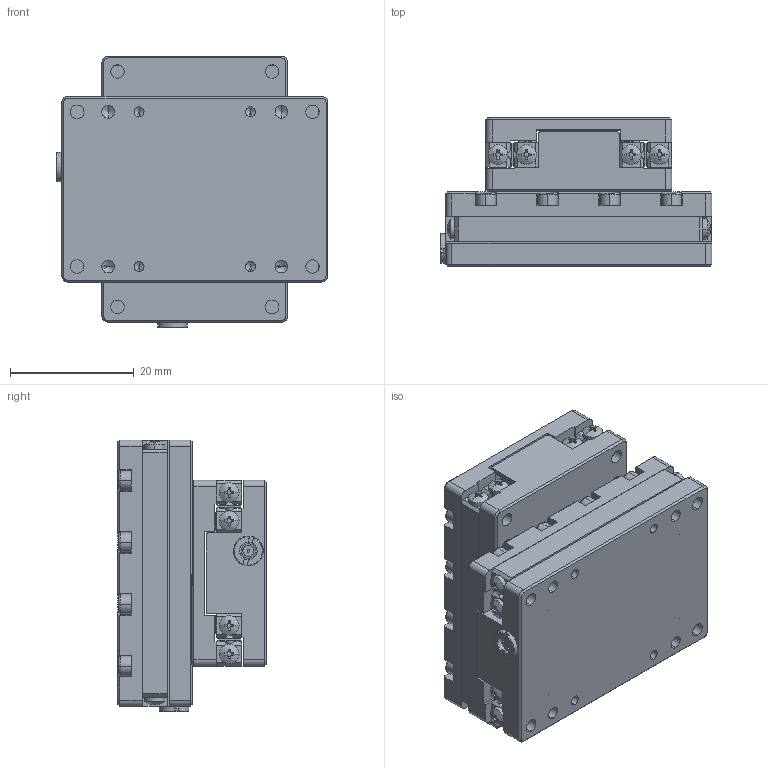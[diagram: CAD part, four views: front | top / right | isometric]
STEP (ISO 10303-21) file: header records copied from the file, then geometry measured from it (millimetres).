
FILE_DESCRIPTION (( 'STEP AP214' ), '1' );
FILE_NAME ('N56.XY20K-B1开环二维直线压电马达3D图（25.08.01）.STEP', '2025-08-01T05:24:12', ( '微软用户' ), ( '微软中国' ), 'SwSTEP 2.0', 'SolidWorks 2016', '' );
FILE_SCHEMA (( 'AUTOMOTIVE_DESIGN' ));
Length unit declared in the file: millimetre
Products named in the file (1): N56.XY20K-B1开环二维直线压电马达3D图（25.08.01）
Bounding box: 43.9 x 24 x 43.9 mm (x, y, z)
Volume: 21440.5 mm3; surface area: 27203.6 mm2
Topology: 106 solids, 106 shells, 2502 faces, 6222 edges, 3970 vertices
Faces by surface type: plane 1290, cylinder 892, cone 224, bspline 96
Entity records: 103733 total; most frequent: CARTESIAN_POINT 15477, DIRECTION 12590, ORIENTED_EDGE 12108, EDGE_CURVE 6054, AXIS2_PLACEMENT_3D 4579, VERTEX_POINT 3970, LINE 3432, VECTOR 3432
